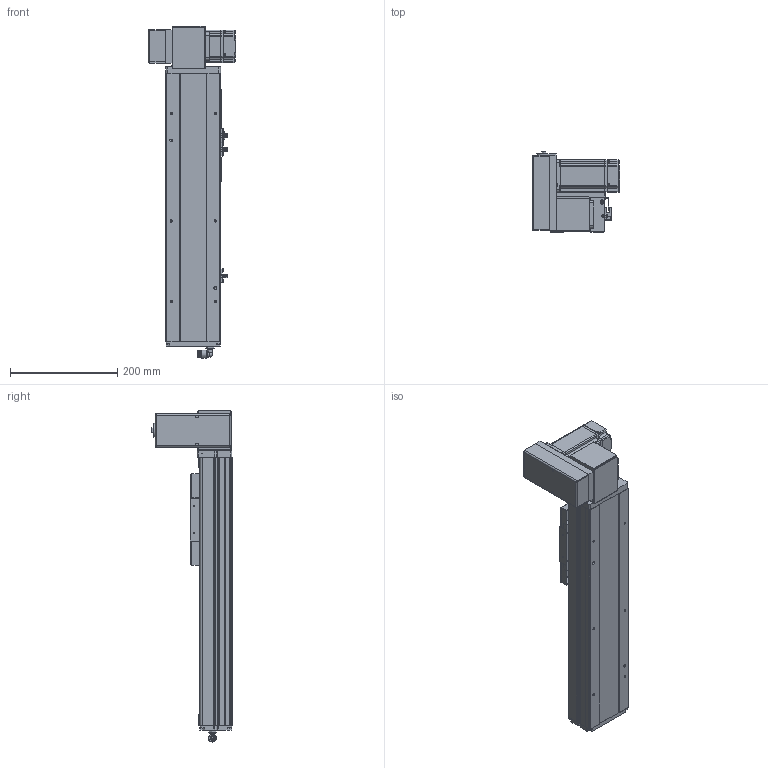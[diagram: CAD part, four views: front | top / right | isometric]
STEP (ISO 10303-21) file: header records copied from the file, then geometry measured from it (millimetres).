
FILE_DESCRIPTION (( 'STEP AP214' ), '1' );
FILE_NAME ('TPE10-L41.6-250-LU-P20-C4.STEP', '2023-03-13T01:20:39', ( '' ), ( '' ), 'SwSTEP 2.0', 'SolidWorks 2020', '' );
FILE_SCHEMA (( 'AUTOMOTIVE_DESIGN' ));
Length unit declared in the file: millimetre
Products named in the file (16): 葩璃 pm-t65-672^TPE10-L41.6-LU-P20-C4; 葩璃 TPE10-L-002 耜裔ZTMT-102B-04^TPE10-L41.6-LU-P20-C4; 葩璃 詩湍75^TPE10-L41.6-LU-P20-C4; 葩璃 侂狟100W^TPE10-L41.6-LU-P20-C4; 葩璃 侂狟400W^TPE10-L41.6-LU-P20-C4; 葩璃 TPF10-L-008 耜醱啣^TPE10-L41.6-LU-P20-C4; hexagon socket head cap screws gb_GB_FASTENER_SCREWS_HSHCS M3X6-N; 葩璃 TPE10-L-001 菁釱MZ-102A-01^TPE10-L41.6-LU-P20-C4; 葩璃 TPT10-L-009 萇儂啣^TPE10-L41.6-LU-P20-C4_200W; hex nuts, style 1-grades ab gb_GB_FASTENER_NUT_SNAB1 M3-N; 葩璃 TPE10-007 々湍釱MZ-169x88^TPE10-L41.6-LU-P20-C4; hexagon head bolts-full thread gb_GB_FASTENER_BOLT_STBAB A M5X16-N; 葩璃 TPF10 詩湍揤啣 TPF10 12^TPE10-L41.6-LU-P20-C4; 葩璃 PL8-02^TPE10-L41.6-LU-P20-C4; 葩璃 TPE10 賑雄殤 TPE10^TPE10-L41.6-LU-P20-C4; TPE10-L41.6-250-LU-P20-C4
Assembly tree (29 placements, depth 2):
  TPE10-L41.6-250-LU-P20-C4
    葩璃 TPE10-L-001 菁釱MZ-102A-01^TPE10-L41.6-LU-P20-C4
    葩璃 TPE10-L-002 耜裔ZTMT-102B-04^TPE10-L41.6-LU-P20-C4  x2
    葩璃 詩湍75^TPE10-L41.6-LU-P20-C4
    葩璃 TPE10-007 々湍釱MZ-169x88^TPE10-L41.6-LU-P20-C4
    葩璃 TPF10-L-008 耜醱啣^TPE10-L41.6-LU-P20-C4
    葩璃 TPE10 賑雄殤 TPE10^TPE10-L41.6-LU-P20-C4
    葩璃 TPF10 詩湍揤啣 TPF10 12^TPE10-L41.6-LU-P20-C4  x2
    葩璃 TPT10-L-009 萇儂啣^TPE10-L41.6-LU-P20-C4_200W
    葩璃 pm-t65-672^TPE10-L41.6-LU-P20-C4  x3
    葩璃 PL8-02^TPE10-L41.6-LU-P20-C4
    葩璃 侂狟100W^TPE10-L41.6-LU-P20-C4
    葩璃 侂狟400W^TPE10-L41.6-LU-P20-C4
    hexagon socket head cap screws gb_GB_FASTENER_SCREWS_HSHCS M3X6-N  x6
    hex nuts, style 1-grades ab gb_GB_FASTENER_NUT_SNAB1 M3-N  x6
    hexagon head bolts-full thread gb_GB_FASTENER_BOLT_STBAB A M5X16-N
Bounding box: 162.5 x 149.65 x 618.35 mm (x, y, z)
Volume: 2503805.4 mm3; surface area: 649734.2 mm2
Topology: 37 solids, 37 shells, 2005 faces, 5141 edges, 3274 vertices
Faces by surface type: plane 1106, cylinder 625, cone 204, bspline 42, torus 26, sphere 2
Entity records: 49956 total; most frequent: CARTESIAN_POINT 10384, DIRECTION 8024, ORIENTED_EDGE 7746, EDGE_CURVE 3873, AXIS2_PLACEMENT_3D 2812, VERTEX_POINT 2501, LINE 2400, VECTOR 2400
